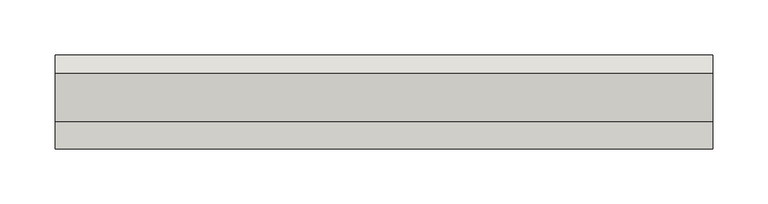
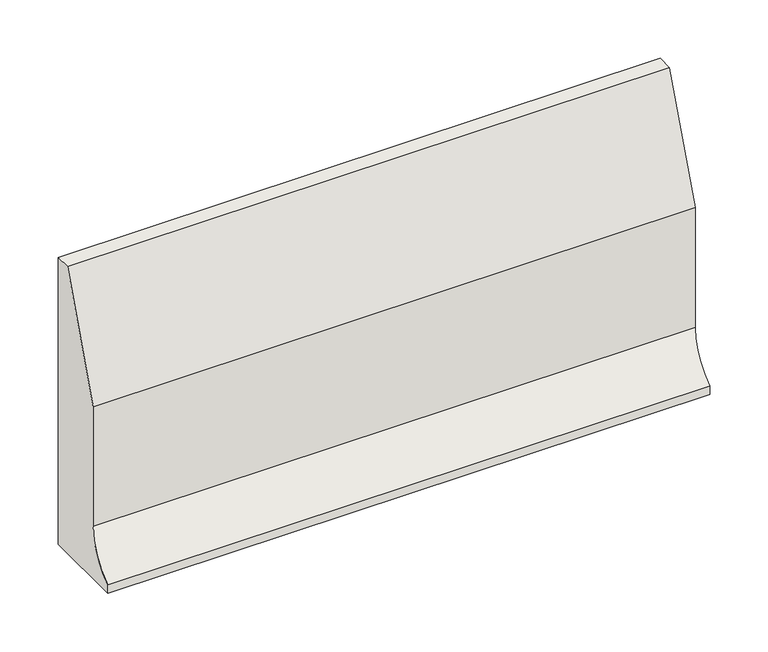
"""IFC4 building model written with IfcOpenShell, lengths in millimetres: wall geometry, GM_PC_WPB_ACO kerb PB straight_ACO : PB H300 plain."""

import ifcopenshell
import ifcopenshell.guid

model = None  # the IFC model being written
_history = None  # IfcOwnerHistory: only IFC2X3 demands one
_inside = {}  # id of a spatial element -> (the spatial element, [elements in it])
_under = {}  # id of a project, library or spatial element -> (it, [spatial elements below it])
_declared = {}  # id of a project -> (the project, [libraries it declares])
_typed = {}  # id of a type object -> (the type object, [elements of that type])
_made_of = {}  # id of a material, layer set ... -> (it, [elements and type objects made of it])


def new_model(schema):
    """Start an empty IFC model of exactly this schema.

    Asked for "IFC4X3", IfcOpenShell would pick the latest addendum, in which some entities
    have other attributes; the version numbers below select the first issue.
    IFC2X3 requires an IfcOwnerHistory on every rooted entity: one is made here for all.
    """
    global model, _history
    if schema == "IFC4X3":
        model = ifcopenshell.file(schema_version=(4, 3, 0, 0))
    else:
        model = ifcopenshell.file(schema=schema)
    _inside.clear()
    _under.clear()
    _declared.clear()
    _typed.clear()
    _made_of.clear()
    _history = None
    if model.schema == "IFC2X3":
        org = make("IfcOrganization", Name="unknown")
        user = make(
            "IfcPersonAndOrganization",
            ThePerson=make("IfcPerson", FamilyName="unknown"),
            TheOrganization=org,
        )
        app = make(
            "IfcApplication",
            ApplicationDeveloper=org,
            Version="unknown",
            ApplicationFullName="unknown",
            ApplicationIdentifier="unknown",
        )
        _history = make(
            "IfcOwnerHistory",
            OwningUser=user,
            OwningApplication=app,
            ChangeAction="ADDED",
            CreationDate=0,
        )
    return model


def make(cls, **values):
    """One entity of the class cls with the attributes given. An attribute that is None is left unset."""
    return model.create_entity(
        cls, **{name: value for name, value in values.items() if value is not None}
    )


def rooted(cls, **values):
    """An entity with a GlobalId (a new one), such as an element, a storey or a relation."""
    return make(cls, GlobalId=ifcopenshell.guid.new(), OwnerHistory=_history, **values)


def si_unit(unit_type, name, prefix=None):
    """IfcSIUnit, for example si_unit("LENGTHUNIT", "METRE", prefix="MILLI")."""
    return make("IfcSIUnit", UnitType=unit_type, Prefix=prefix, Name=name)


def assignment(units):
    """IfcUnitAssignment: the units of a project."""
    return None if units is None else make("IfcUnitAssignment", Units=units)


def point(xyz):
    """IfcCartesianPoint."""
    return None if xyz is None else make("IfcCartesianPoint", Coordinates=xyz)


def direction(xyz):
    """IfcDirection."""
    return None if xyz is None else make("IfcDirection", DirectionRatios=xyz)


def frame(location, z_axis=None, x_axis=None):
    """IfcAxis2Placement3D, a coordinate frame: its origin and axes. An axis left out is left unset."""
    return make(
        "IfcAxis2Placement3D",
        Location=point(location),
        Axis=direction(z_axis),
        RefDirection=direction(x_axis),
    )


def origin():
    """The frame at (0, 0, 0) with its axes left unset."""
    return frame((0.0, 0.0, 0.0))


def place(relative_to, where):
    """IfcLocalPlacement: puts the frame where relative to a parent placement (None: the world)."""
    return make(
        "IfcLocalPlacement", PlacementRelTo=relative_to, RelativePlacement=where
    )


def context(
    kind, dimensions, precision=None, world=None, true_north=None, identifier=None
):
    """IfcGeometricRepresentationContext, for example the 3D "Model" context."""
    return make(
        "IfcGeometricRepresentationContext",
        ContextIdentifier=identifier,
        ContextType=kind,
        CoordinateSpaceDimension=dimensions,
        Precision=precision,
        WorldCoordinateSystem=world,
        TrueNorth=true_north,
    )


def project(units=None, contexts=None):
    """IfcProject with its units and contexts."""
    return rooted(
        "IfcProject",
        Name="project",
        RepresentationContexts=contexts,
        UnitsInContext=assignment(units),
    )


def spatial(cls, under=None, at=None, **own):
    """A site, building, storey or space (cls), placed at a placement, below another one or the project."""
    s = rooted(cls, ObjectPlacement=at, **own)
    if under is not None:
        _under.setdefault(under.id(), (under, []))[1].append(s)
    return s


def shape(context_of_items, identifier, shape_type, items):
    """IfcShapeRepresentation: the items that make up one representation, for example the "Body"."""
    return make(
        "IfcShapeRepresentation",
        ContextOfItems=context_of_items,
        RepresentationIdentifier=identifier,
        RepresentationType=shape_type,
        Items=items,
    )


def source(mapping_origin, context_of_items, identifier, shape_type, items):
    """IfcRepresentationMap: a shape defined once, which mapped items show again and again."""
    return make(
        "IfcRepresentationMap",
        MappingOrigin=mapping_origin,
        MappedRepresentation=shape(context_of_items, identifier, shape_type, items),
    )


def transform(
    local_origin,
    x_axis=None,
    y_axis=None,
    z_axis=None,
    scale=None,
    scale2=None,
    scale3=None,
    uniform=True,
):
    """IfcCartesianTransformationOperator3D, or its non-uniform kind. x_axis, y_axis, z_axis: its Axis1, 2, 3."""
    if uniform:
        return make(
            "IfcCartesianTransformationOperator3D",
            Axis1=direction(x_axis),
            Axis2=direction(y_axis),
            LocalOrigin=point(local_origin),
            Scale=scale,
            Axis3=direction(z_axis),
        )
    return make(
        "IfcCartesianTransformationOperator3DnonUniform",
        Axis1=direction(x_axis),
        Axis2=direction(y_axis),
        LocalOrigin=point(local_origin),
        Scale=scale,
        Axis3=direction(z_axis),
        Scale2=scale2,
        Scale3=scale3,
    )


def mapped(mapping_source, mapping_target):
    """IfcMappedItem: shows the shape of a source again, moved by a transform."""
    return make(
        "IfcMappedItem", MappingSource=mapping_source, MappingTarget=mapping_target
    )


def made_of(thing, what):
    """Note that an element or type object is made of a material, layer set ...; save() writes the relation."""
    if what is not None:
        _made_of.setdefault(what.id(), (what, []))[1].append(thing)
    return thing


def element(
    cls,
    number,
    at=None,
    inside=None,
    cuts=None,
    type_object=None,
    material=None,
    context=None,
    identifier="Body",
    shape_type=None,
    held_by="IfcProductDefinitionShape",
    body=None,
    shapes=None,
    **own,
):
    """One element of the class cls, such as IfcWall. Its Tag is "e" and its number.

    at: its placement. inside: the storey or other place that contains it. cuts: it is an
    opening in that element (IfcRelVoidsElement). A single representation is given by context,
    identifier, shape_type and body (its items); several are given by shapes. held_by: the class
    of the entity that holds the representations. save() writes the other relations.
    """
    e = rooted(cls, Tag="e%d" % number, ObjectPlacement=at, **own)
    if body is not None:
        shapes = [shape(context, identifier, shape_type, body)]
    if shapes is not None:
        e.Representation = make(held_by, Representations=shapes)
    if inside is not None:
        _inside.setdefault(inside.id(), (inside, []))[1].append(e)
    if cuts is not None:
        rooted(
            "IfcRelVoidsElement", RelatingBuildingElement=cuts, RelatedOpeningElement=e
        )
    if type_object is not None:
        _typed.setdefault(type_object.id(), (type_object, []))[1].append(e)
    return made_of(e, material)


def aggregate(whole, parts):
    """IfcRelAggregates: a whole, such as a stair, and the parts it consists of."""
    return rooted("IfcRelAggregates", RelatingObject=whole, RelatedObjects=parts)


def save(model, path):
    """Write the relations noted so far, then the file.

    IfcRelAggregates (storeys below a building ...), IfcRelContainedInSpatialStructure (elements
    in a storey), IfcRelDefinesByType, IfcRelAssociatesMaterial and IfcRelDeclares: one each for
    every whole, place, type object, material and project.
    """
    for whole, parts in _under.values():
        aggregate(whole, parts)
    for where, things in _inside.values():
        rooted(
            "IfcRelContainedInSpatialStructure",
            RelatedElements=things,
            RelatingStructure=where,
        )
    for kind, things in _typed.values():
        rooted("IfcRelDefinesByType", RelatedObjects=things, RelatingType=kind)
    for what, things in _made_of.values():
        rooted("IfcRelAssociatesMaterial", RelatedObjects=things, RelatingMaterial=what)
    for by, libraries in _declared.values():
        rooted("IfcRelDeclares", RelatingContext=by, RelatedDefinitions=libraries)
    model.write(path)


def plane_surface(at):
    """IfcPlane: the flat surface through the origin of the frame at, square to its z axis."""
    return make("IfcPlane", Position=at)


def extruded_surface(curve, direction_of_extrusion, depth):
    """IfcSurfaceOfLinearExtrusion: the curve pushed along a direction by depth."""
    return make(
        "IfcSurfaceOfLinearExtrusion",
        SweptCurve=make("IfcArbitraryOpenProfileDef", ProfileType="CURVE", Curve=curve),
        ExtrudedDirection=direction(direction_of_extrusion),
        Depth=depth,
    )


def spline_curve(degree, points, multiplicities, knots, weights=None):
    """IfcBSplineCurveWithKnots; with weights, IfcRationalBSplineCurveWithKnots."""
    own = dict(
        Degree=degree,
        ControlPointsList=[point(p) for p in points],
        CurveForm="UNSPECIFIED",
        ClosedCurve=False,
        SelfIntersect=False,
        KnotMultiplicities=multiplicities,
        Knots=knots,
        KnotSpec="UNSPECIFIED",
    )
    if weights is None:
        return make("IfcBSplineCurveWithKnots", **own)
    return make("IfcRationalBSplineCurveWithKnots", WeightsData=weights, **own)


def advanced_brep(points, edges, surfaces, faces):
    """IfcAdvancedBrep: a solid bounded by faces that lie on surfaces and meet in shared edges.

    An edge is (start, end): straight between two places in points (the first is 0);
    or (start, end, curve); or (start, end, curve, False) where it runs against its curve.
    A face is (place in surfaces, loops), or (place, loops, False) where it looks against
    its surface's normal. A loop lists edges by number (the first is 1), with a minus sign
    where the edge is run from its end to its start. The first loop is the outer one.
    """
    corners = [point(p) for p in points]
    vertices = [make("IfcVertexPoint", VertexGeometry=c) for c in corners]
    made = []
    for start, end, *more in edges:
        made.append(
            make(
                "IfcEdgeCurve",
                EdgeStart=vertices[start],
                EdgeEnd=vertices[end],
                EdgeGeometry=more[0] if more else make("IfcPolyline", Points=[corners[start], corners[end]]),
                SameSense=more[1] if len(more) > 1 else True,
            )
        )
    hull = []
    for where, loops, *sense in faces:
        bounds = []
        for j, loop in enumerate(loops):
            ring = [make("IfcOrientedEdge", EdgeElement=made[abs(k) - 1], Orientation=k > 0) for k in loop]
            bounds.append(
                make(
                    "IfcFaceOuterBound" if j == 0 else "IfcFaceBound",
                    Bound=make("IfcEdgeLoop", EdgeList=ring),
                    Orientation=True,
                )
            )
        hull.append(make("IfcAdvancedFace", Bounds=bounds, FaceSurface=surfaces[where], SameSense=sense[0] if sense else True))
    return make("IfcAdvancedBrep", Outer=make("IfcClosedShell", CfsFaces=hull))


def wall_fa01e486(model_context):
    return source(origin(), model_context, "Body", "AdvancedBrep", [
        advanced_brep(
        [(0.0, -85.0, 8.9329844), (0.0, -60.02016, 54.9904169), (0.0, -60.02016, 180.0038512), (0.0, -16.0766274, 300.0008401), (0.0, 0.0, 300.0008401), (0.0, 0.0, -0.0124899), (0.0, -85.0, -0.0124899), (595.0, -85.0, 8.9329844), (595.0, -85.0, -0.0124899), (595.0, 0.0, -0.0124899), (595.0, 0.0, 300.0008401), (595.0, -16.0766274, 300.0008401), (595.0, -60.02016, 180.0038512), (595.0, -60.02016, 54.9904169)],
        [
            (0, 1, spline_curve(3, [(0.0, -85.0, 8.9329844), (0.0, -69.4194957, 19.0724445), (0.0, -60.0210198, 36.401179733), (0.0, -60.02016, 54.9904169)], [4, 4], [0.0, 1.0])),
            (1, 2),
            (2, 3),
            (3, 4),
            (4, 5),
            (5, 6),
            (6, 0),
            (7, 8),
            (8, 9),
            (9, 10),
            (10, 11),
            (11, 12),
            (12, 13),
            (13, 7, spline_curve(3, [(595.0, -60.02016, 54.9904169), (595.0, -60.0210198, 36.401179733), (595.0, -69.4194957, 19.0724445), (595.0, -85.0, 8.9329844)], [4, 4], [0.0, 1.0])),
            (0, 7),
            (13, 1),
            (12, 2),
            (11, 3),
            (10, 4),
            (9, 5),
            (8, 6),
        ],
        [
            plane_surface(frame((0.0, 0.0, 0.0), z_axis=(-1.0, 0.0, 0.0), x_axis=(0.0, 0.0, 1.0))),
            plane_surface(frame((595.0, 0.0, 0.0), z_axis=(1.0, 0.0, 0.0), x_axis=(0.0, 0.0, 1.0))),
            extruded_surface(spline_curve(3, [(595.0, -85.0, 8.9329844), (595.0, -69.4194957, 19.0724445), (595.0, -60.0210198, 36.401179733), (595.0, -60.02016, 54.9904169)], [4, 4], [0.0, 1.0]), (-595.0, 0.0, 0.0), 595.0),
            plane_surface(frame((0.0, -60.02016, 54.9904169), z_axis=(0.0, -1.0, 0.0), x_axis=(1.0, 0.0, 0.0))),
            plane_surface(frame((0.0, -60.02016, 180.0038512), z_axis=(0.0, -0.9390162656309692, 0.34387272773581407), x_axis=(1.0, 0.0, 0.0))),
            plane_surface(frame((0.0, -16.0766274, 300.0008401), z_axis=(0.0, 0.0, 1.0), x_axis=(1.0, 0.0, 0.0))),
            plane_surface(frame((0.0, 0.0, 300.0008401), z_axis=(0.0, 1.0, 0.0), x_axis=(1.0, 0.0, 0.0))),
            plane_surface(frame((0.0, 0.0, -0.0124899), z_axis=(0.0, 0.0, -1.0), x_axis=(1.0, 0.0, 0.0))),
            plane_surface(frame((0.0, -85.0, -0.0124899), z_axis=(0.0, -1.0, 0.0), x_axis=(1.0, 0.0, 0.0))),
        ],
        [
            (0, [[1, 2, 3, 4, 5, 6, 7]]),
            (1, [[8, 9, 10, 11, 12, 13, 14]]),
            (2, [[-1, 15, -14, 16]]),
            (3, [[-2, -16, -13, 17]]),
            (4, [[-3, -17, -12, 18]]),
            (5, [[-4, -18, -11, 19]]),
            (6, [[-5, -19, -10, 20]]),
            (7, [[-6, -20, -9, 21]]),
            (8, [[-7, -21, -8, -15]]),
        ],
    ),
    ])


if __name__ == "__main__":
    model = new_model("IFC4")
    model_context = context("Model", 3, world=origin())
    ifc_project = project(units=[si_unit("LENGTHUNIT", "METRE", prefix="MILLI")], contexts=[model_context])
    site = spatial("IfcSite", under=ifc_project)
    building = spatial("IfcBuilding", under=site)
    placement = place(None, origin())
    wall_shape = wall_fa01e486(model_context)
    element("IfcWall", 1, ObjectType="GM_PC_WPB_ACO kerb PB straight_ACO : PB H300 plain", at=placement, inside=building, context=model_context, shape_type="MappedRepresentation", body=[
        mapped(wall_shape, transform((0.0, 0.0, 0.0), x_axis=(1.0, 0.0, 0.0), y_axis=(0.0, 1.0, 0.0), z_axis=(0.0, 0.0, 1.0))),
    ])
    save(model, "model.ifc")
